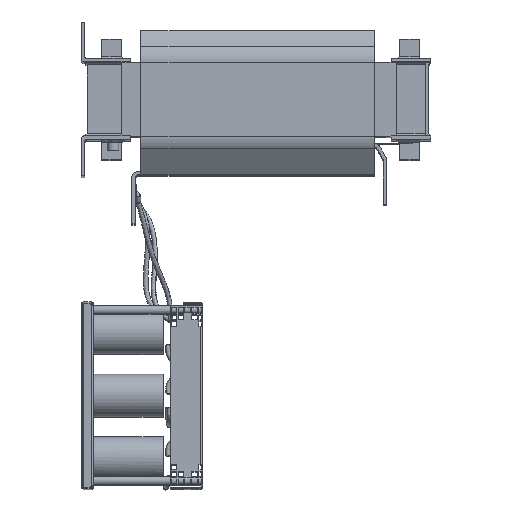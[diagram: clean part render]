
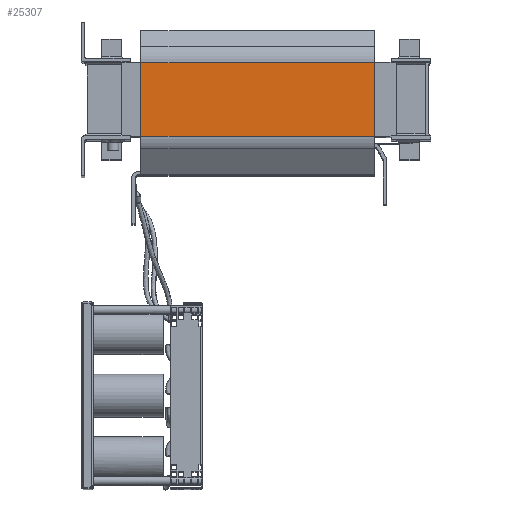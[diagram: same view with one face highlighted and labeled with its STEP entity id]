
A CAD part, top view. The second image highlights one B-rep face of the part: STEP entity #25307.
In plain terms, the highlighted planar face has unit normal (0, 0.005, 1).
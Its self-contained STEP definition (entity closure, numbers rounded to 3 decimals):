
#25249=CARTESIAN_POINT('',(264.611,202.434,210.072));
#25250=VERTEX_POINT('',#25249);
#25258=CARTESIAN_POINT('',(-145.389,202.434,210.072));
#25259=VERTEX_POINT('',#25258);
#25260=CARTESIAN_POINT('',(-145.389,202.434,210.072));
#25261=DIRECTION('',(1.0,0.0,0.0));
#25262=VECTOR('',#25261,410.0);
#25263=LINE('',#25260,#25262);
#25264=EDGE_CURVE('',#25259,#25250,#25263,.T.);
#25277=CARTESIAN_POINT('',(59.611,202.434,210.072));
#25278=DIRECTION('',(0.,0.006,1.));
#25279=DIRECTION('',(1.0,0.0,0.0));
#25280=AXIS2_PLACEMENT_3D('',#25277,#25278,#25279);
#25281=PLANE('',#25280);
#25282=CARTESIAN_POINT('',(264.611,330.936,209.361));
#25283=VERTEX_POINT('',#25282);
#25284=CARTESIAN_POINT('',(264.611,202.434,210.072));
#25285=DIRECTION('',(0.,1.,-0.006));
#25286=VECTOR('',#25285,128.504);
#25287=LINE('',#25284,#25286);
#25288=EDGE_CURVE('',#25250,#25283,#25287,.T.);
#25289=ORIENTED_EDGE('',*,*,#25288,.T.);
#25290=CARTESIAN_POINT('',(-145.389,330.936,209.361));
#25291=VERTEX_POINT('',#25290);
#25292=CARTESIAN_POINT('',(-145.389,330.936,209.361));
#25293=DIRECTION('',(1.0,0.0,0.0));
#25294=VECTOR('',#25293,410.0);
#25295=LINE('',#25292,#25294);
#25296=EDGE_CURVE('',#25291,#25283,#25295,.T.);
#25297=ORIENTED_EDGE('',*,*,#25296,.F.);
#25298=CARTESIAN_POINT('',(-145.389,330.936,209.361));
#25299=DIRECTION('',(0.,-1.,0.006));
#25300=VECTOR('',#25299,128.504);
#25301=LINE('',#25298,#25300);
#25302=EDGE_CURVE('',#25291,#25259,#25301,.T.);
#25303=ORIENTED_EDGE('',*,*,#25302,.T.);
#25304=ORIENTED_EDGE('',*,*,#25264,.T.);
#25305=EDGE_LOOP('',(#25289,#25297,#25303,#25304));
#25306=FACE_OUTER_BOUND('',#25305,.T.);
#25307=ADVANCED_FACE('',(#25306),#25281,.T.);
